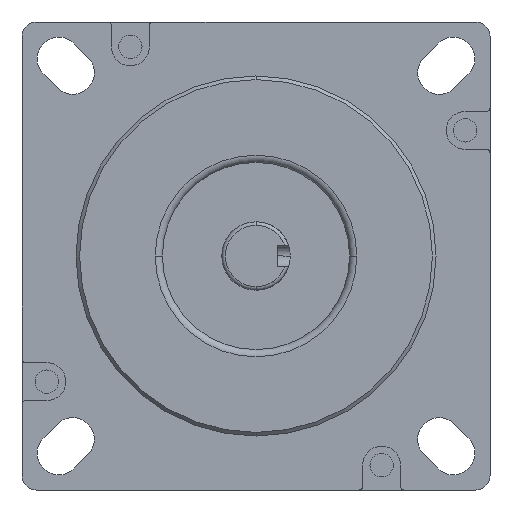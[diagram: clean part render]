
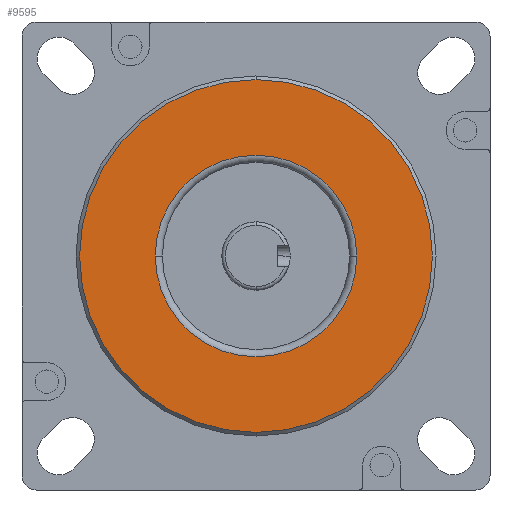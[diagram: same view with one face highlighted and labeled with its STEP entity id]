
A CAD part, front view. The second image highlights one B-rep face of the part: STEP entity #9595.
In plain terms, the highlighted planar face has unit normal (0, -1, 0).
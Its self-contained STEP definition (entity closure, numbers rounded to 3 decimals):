
#216 = CARTESIAN_POINT ( 'NONE',  ( 512., -10., 50.8 ) ) ;
#406 = AXIS2_PLACEMENT_3D ( 'NONE', #7100, #9529, #8047 ) ;
#1123 = ORIENTED_EDGE ( 'NONE', *, *, #6533, .T. ) ;
#1442 = FACE_BOUND ( 'NONE', #3214, .T. ) ;
#1591 = AXIS2_PLACEMENT_3D ( 'NONE', #2028, #3855, #7837 ) ;
#1710 = DIRECTION ( 'NONE',  ( 0., -1., 0. ) ) ;
#1893 = AXIS2_PLACEMENT_3D ( 'NONE', #5613, #7848, #3969 ) ;
#2024 = EDGE_CURVE ( 'NONE', #5920, #3127, #8711, .T. ) ;
#2028 = CARTESIAN_POINT ( 'NONE',  ( 540., -10., 50.8 ) ) ;
#2286 = ORIENTED_EDGE ( 'NONE', *, *, #8215, .T. ) ;
#2618 = ORIENTED_EDGE ( 'NONE', *, *, #4274, .T. ) ;
#2675 = DIRECTION ( 'NONE',  ( 1., 0., 0. ) ) ;
#3083 = DIRECTION ( 'NONE',  ( 0., 0., -1. ) ) ;
#3127 = VERTEX_POINT ( 'NONE', #216 ) ;
#3214 = EDGE_LOOP ( 'NONE', ( #9879, #2286 ) ) ;
#3289 = EDGE_LOOP ( 'NONE', ( #1123, #2618 ) ) ;
#3332 = CARTESIAN_POINT ( 'NONE',  ( 540., -10., 50.8 ) ) ;
#3797 = CIRCLE ( 'NONE', #6856, 28. ) ;
#3855 = DIRECTION ( 'NONE',  ( 0., -1., 0. ) ) ;
#3969 = DIRECTION ( 'NONE',  ( 1., 0., 0. ) ) ;
#4274 = EDGE_CURVE ( 'NONE', #5823, #6417, #9032, .T. ) ;
#5613 = CARTESIAN_POINT ( 'NONE',  ( 540., -10., 50.8 ) ) ;
#5638 = AXIS2_PLACEMENT_3D ( 'NONE', #3332, #1710, #3083 ) ;
#5819 = CARTESIAN_POINT ( 'NONE',  ( 540., -10., 99.8 ) ) ;
#5823 = VERTEX_POINT ( 'NONE', #6820 ) ;
#5920 = VERTEX_POINT ( 'NONE', #7243 ) ;
#6042 = CARTESIAN_POINT ( 'NONE',  ( 540., -10., 50.8 ) ) ;
#6202 = CIRCLE ( 'NONE', #1591, 49. ) ;
#6417 = VERTEX_POINT ( 'NONE', #5819 ) ;
#6533 = EDGE_CURVE ( 'NONE', #6417, #5823, #6202, .T. ) ;
#6820 = CARTESIAN_POINT ( 'NONE',  ( 540., -10., 1.8 ) ) ;
#6856 = AXIS2_PLACEMENT_3D ( 'NONE', #6042, #10077, #2675 ) ;
#7100 = CARTESIAN_POINT ( 'NONE',  ( 540., -10., 50.8 ) ) ;
#7243 = CARTESIAN_POINT ( 'NONE',  ( 568., -10., 50.8 ) ) ;
#7837 = DIRECTION ( 'NONE',  ( 0., 0., -1. ) ) ;
#7848 = DIRECTION ( 'NONE',  ( 0., 1., 0. ) ) ;
#8047 = DIRECTION ( 'NONE',  ( 0., 0., -1. ) ) ;
#8215 = EDGE_CURVE ( 'NONE', #3127, #5920, #3797, .T. ) ;
#8711 = CIRCLE ( 'NONE', #1893, 28. ) ;
#9032 = CIRCLE ( 'NONE', #5638, 49. ) ;
#9529 = DIRECTION ( 'NONE',  ( 0., -1., 0. ) ) ;
#9595 = ADVANCED_FACE ( 'NONE', ( #10221, #1442 ), #10439, .T. ) ;
#9879 = ORIENTED_EDGE ( 'NONE', *, *, #2024, .T. ) ;
#10077 = DIRECTION ( 'NONE',  ( 0., 1., 0. ) ) ;
#10221 = FACE_OUTER_BOUND ( 'NONE', #3289, .T. ) ;
#10439 = PLANE ( 'NONE',  #406 ) ;
